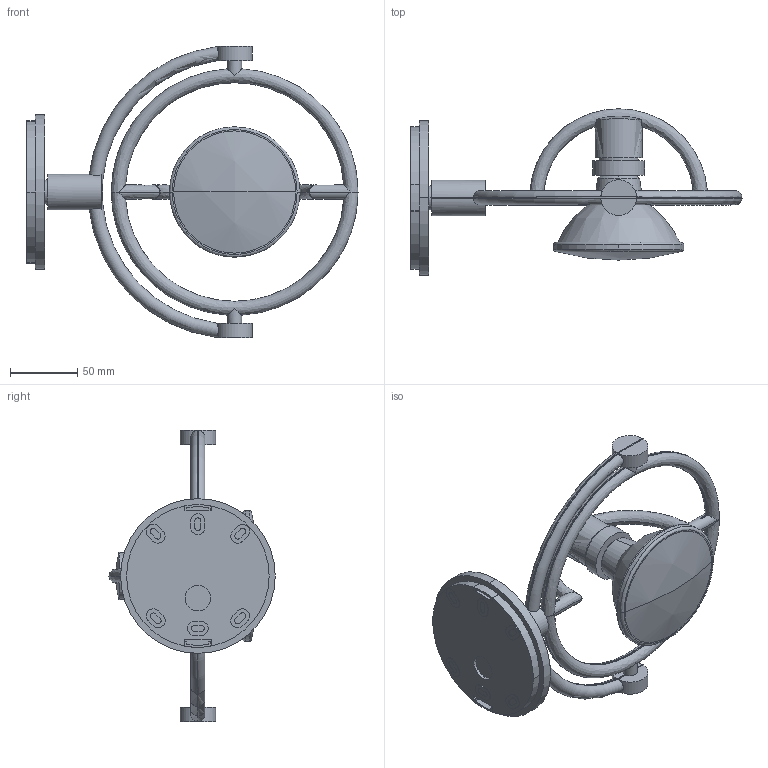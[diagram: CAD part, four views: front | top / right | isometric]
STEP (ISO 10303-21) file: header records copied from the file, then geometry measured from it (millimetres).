
FILE_DESCRIPTION((''),'2;1');
FILE_NAME('CINI&NILS - Fariuno parete soffitto 3D.stp','2010-04-01T11:11:50',(''),(''),'AutoCAD STEP 2000i','AutoCAD 2000i',', , ');
FILE_SCHEMA(('CONFIG_CONTROL_DESIGN'));
Length unit declared in the file: millimetre
Products named in the file (1): CINI&NILS - FARIUNO PARETE SOFFITTO 3D
Bounding box: 246.88 x 123.75 x 217 mm (x, y, z)
Volume: 506578.9 mm3; surface area: 98099.5 mm2
Topology: 1 solids, 4 shells, 243 faces, 658 edges, 440 vertices
Faces by surface type: cylinder 89, plane 88, bspline 62, torus 4
Entity records: 9153 total; most frequent: CARTESIAN_POINT 2978, ORIENTED_EDGE 1316, DIRECTION 1232, EDGE_CURVE 658, AXIS2_PLACEMENT_3D 452, VERTEX_POINT 440, VECTOR 328, LINE 328
